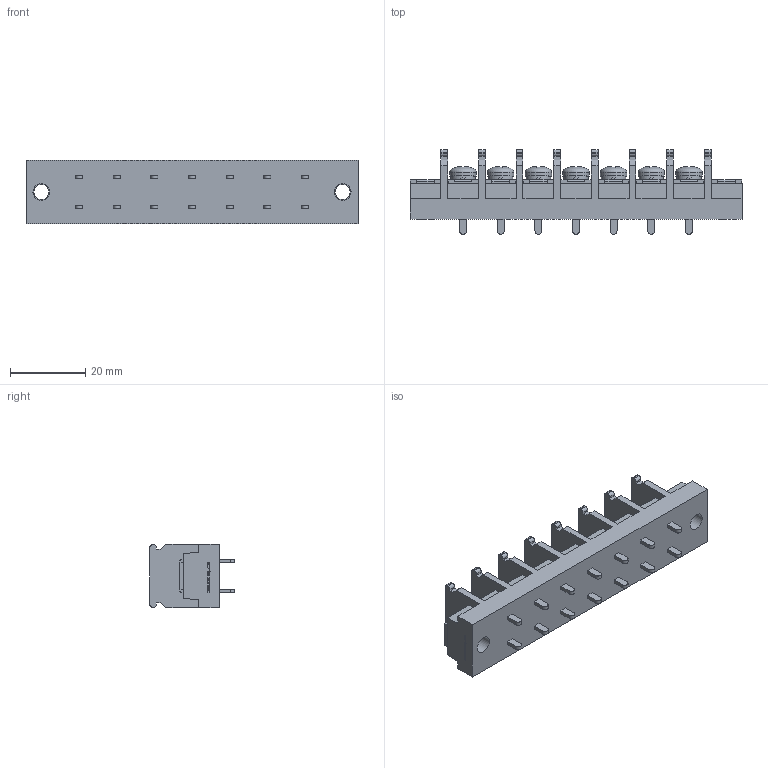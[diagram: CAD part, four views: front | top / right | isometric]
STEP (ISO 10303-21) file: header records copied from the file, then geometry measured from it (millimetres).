
FILE_DESCRIPTION(/* description */ ('Alibre Inc.'),/* implementation_level */ '2;1');
FILE_NAME(/* name */ 'export0',/* time_stamp */ '2015-10-17T15:47:31+09:00',/* author */ (''),/* organization */ (''),/* preprocessor_version */ 'ST-DEVELOPER v14',/* originating_system */ 'Alibre',/* authorisation */ '');
FILE_SCHEMA (('CONFIG_CONTROL_DESIGN'));
Length unit declared in the file: centimetre
Products named in the file (1): ID_1
Bounding box: 88.2 x 22.5 x 17 mm (x, y, z)
Volume: 16001.9 mm3; surface area: 9519.8 mm2
Topology: 1 solids, 17 shells, 948 faces, 2565 edges, 1703 vertices
Faces by surface type: plane 706, bspline 104, cylinder 89, cone 28, torus 14, sphere 7
Full cylindrical faces by diameter (mm): 4 x9, 4.5 x2, 6.5 x7, 7 x7
Entity records: 28778 total; most frequent: CARTESIAN_POINT 6284, ORIENTED_EDGE 5024, DIRECTION 3600, EDGE_CURVE 2512, VECTOR 1862, LINE 1862, VERTEX_POINT 1682, AXIS2_PLACEMENT_3D 1212
